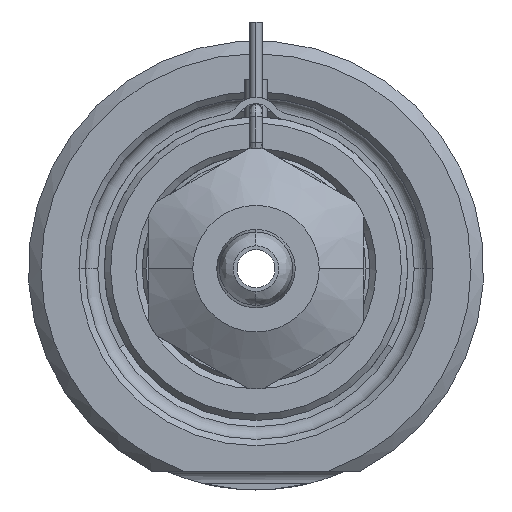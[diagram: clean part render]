
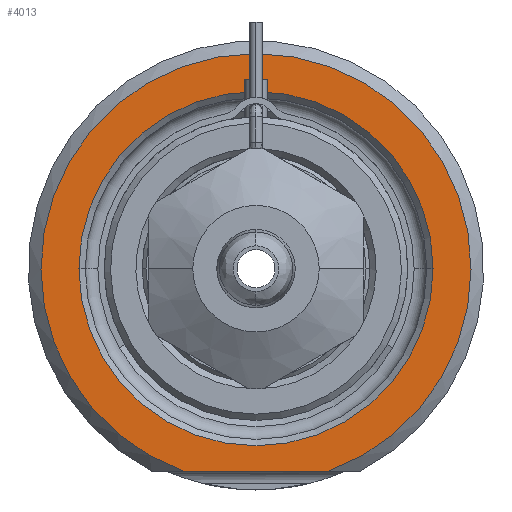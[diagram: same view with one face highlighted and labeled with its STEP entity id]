
A CAD part, front view. The second image highlights one B-rep face of the part: STEP entity #4013.
In plain terms, the highlighted planar face has unit normal (0, -1, 0).
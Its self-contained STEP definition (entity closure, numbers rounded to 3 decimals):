
#645=CARTESIAN_POINT('',(0.,0.,0.));
#646=DIRECTION('',(0.,-1.,0.));
#647=DIRECTION('',(0.338,0.,-0.941));
#648=AXIS2_PLACEMENT_3D('',#645,#646,#647);
#669=DIRECTION('',(1.,0.,0.));
#670=VECTOR('',#669,11.489);
#671=CARTESIAN_POINT('',(-5.745,0.,-16.));
#672=LINE('',#671,#670);
#673=CARTESIAN_POINT('',(0.,0.,0.));
#674=DIRECTION('',(0.,1.,0.));
#675=DIRECTION('',(-1.,0.,0.));
#676=AXIS2_PLACEMENT_3D('',#673,#674,#675);
#678=CARTESIAN_POINT('',(0.,0.,0.));
#679=DIRECTION('',(0.,1.,0.));
#680=DIRECTION('',(1.,0.,0.));
#681=AXIS2_PLACEMENT_3D('',#678,#679,#680);
#2510=CARTESIAN_POINT('',(-14.,0.,0.));
#2511=CARTESIAN_POINT('',(14.,0.,0.));
#2512=VERTEX_POINT('',#2510);
#2513=VERTEX_POINT('',#2511);
#2560=CARTESIAN_POINT('',(-5.745,0.,-16.));
#2561=CARTESIAN_POINT('',(5.745,0.,-16.));
#2562=VERTEX_POINT('',#2560);
#2563=VERTEX_POINT('',#2561);
#3998=CARTESIAN_POINT('',(0.,0.,0.));
#3999=DIRECTION('',(0.,-1.,0.));
#4000=DIRECTION('',(1.,0.,0.));
#4001=AXIS2_PLACEMENT_3D('',#3998,#3999,#4000);
#4002=PLANE('',#4001);
#4003=ORIENTED_EDGE('',*,*,#3930,.F.);
#4004=ORIENTED_EDGE('',*,*,#3990,.F.);
#4005=EDGE_LOOP('',(#4003,#4004));
#4006=FACE_OUTER_BOUND('',#4005,.F.);
#4008=ORIENTED_EDGE('',*,*,#4007,.F.);
#4010=ORIENTED_EDGE('',*,*,#4009,.F.);
#4011=EDGE_LOOP('',(#4008,#4010));
#4012=FACE_BOUND('',#4011,.F.);
#4013=ADVANCED_FACE('',(#4006,#4012),#4002,.T.);
#649=CIRCLE('',#648,17.);
#677=CIRCLE('',#676,14.);
#682=CIRCLE('',#681,14.);
#3930=EDGE_CURVE('',#2562,#2563,#672,.T.);
#3990=EDGE_CURVE('',#2563,#2562,#649,.T.);
#4007=EDGE_CURVE('',#2512,#2513,#677,.T.);
#4009=EDGE_CURVE('',#2513,#2512,#682,.T.);
